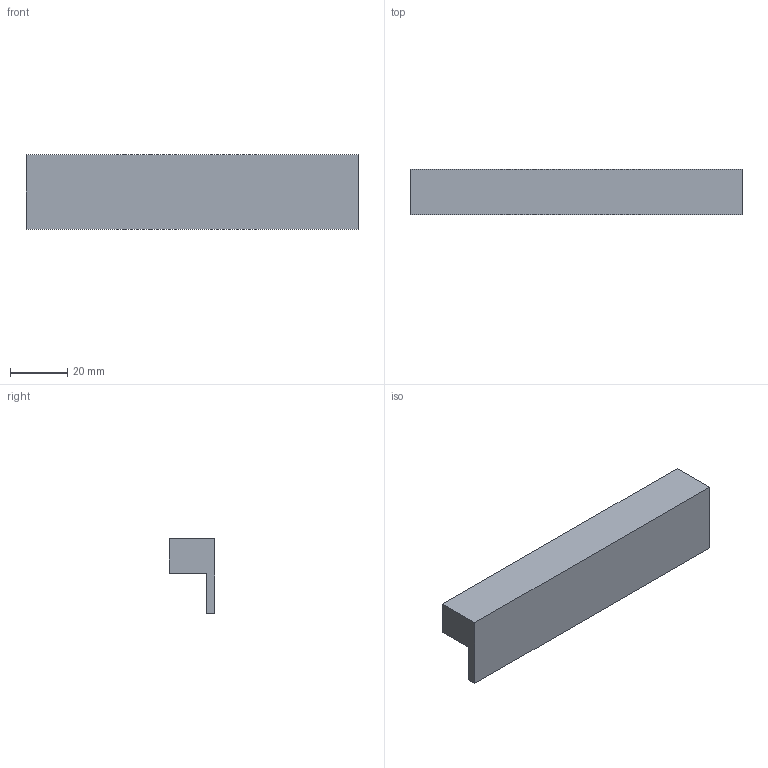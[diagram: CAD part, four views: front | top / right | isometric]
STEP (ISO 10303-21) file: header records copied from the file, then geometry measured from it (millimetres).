
FILE_DESCRIPTION( ( 'STEP AP214' ), '1' );
FILE_NAME( 'D:/Shahbaz D&D/Task/Check and correct handles with 3 drill sockets/Trani/9995439.stp', '2023-02-20T11:24:51', ( '' ), ( '' ), ' ', 'PARTsolutions', ' ' );
FILE_SCHEMA( ( 'AUTOMOTIVE_DESIGN { 1 0 10303 214 1 1 1 1 }' ) );
Length unit declared in the file: millimetre
Products named in the file (1): _9995439
Bounding box: 116 x 16 x 26 mm (x, y, z)
Volume: 26829.8 mm3; surface area: 10463.3 mm2
Topology: 1 solids, 1 shells, 12 faces, 24 edges, 16 vertices
Faces by surface type: plane 10, cylinder 2
Full cylindrical faces by diameter (mm): 5 x2
Entity records: 414 total; most frequent: DIRECTION 52, CARTESIAN_POINT 51, ORIENTED_EDGE 44, EDGE_CURVE 22, LINE 18, VECTOR 18, AXIS2_PLACEMENT_3D 17, EDGE_LOOP 16
